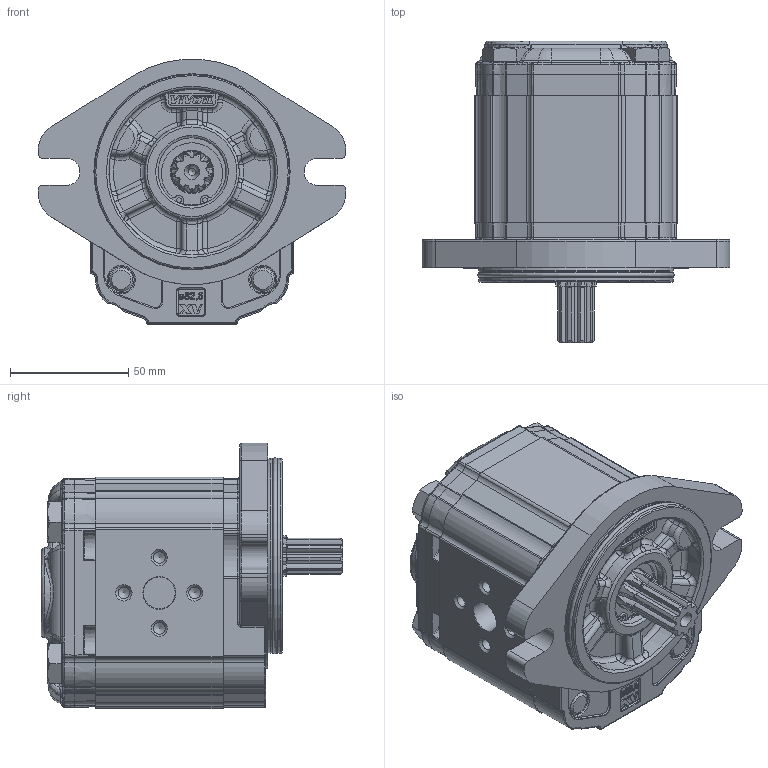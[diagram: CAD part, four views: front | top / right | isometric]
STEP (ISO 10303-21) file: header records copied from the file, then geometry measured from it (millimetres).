
FILE_DESCRIPTION(/* description */ ('Unknown'),/* implementation_level */ '2;1');
FILE_NAME(/* name */ 'X2U4552IOOA',/* time_stamp */ '2021-04-26T09:16:14+02:00',/* author */ ('Unknown'),/* organization */ ('Unknown'),/* preprocessor_version */ 'ST-DEVELOPER v16.7',/* originating_system */ 'Solid Edge',/* authorisation */ 'Unknown');
FILE_SCHEMA (('CONFIG_CONTROL_DESIGN','AUTOMOTIVE_DESIGN {1 0 10303 214 3 1 1}'));
Products named in the file (5): X2U4552IOOA; X2U52; 2I; X2OOH54; XU219-A
Assembly tree (4 placements, depth 2):
  X2U4552IOOA
    X2U52
    2I
    X2OOH54
    XU219-A
Bounding box: 130.38 x 127.7 x 112.3 mm (x, y, z)
Volume: 711657.3 mm3; surface area: 113744.6 mm2
Topology: 4 solids, 5 shells, 2230 faces, 5510 edges, 3347 vertices
Faces by surface type: cylinder 660, plane 592, bspline 537, torus 286, cone 117, sphere 38
Full cylindrical faces by diameter (mm): 2 x2, 4.917 x4, 5 x4, 10 x4, 10.5 x4, 11 x2, 11.5 x4, 13.5 x2, 16 x4, 17.42 x1, 18 x1, 20.595 x1, 23.332 x1, 25.834 x1, 28.5 x1, 28.56 x1, 28.57 x1, 28.8 x1, 30.4 x1, 79.6 x2, 82.5 x2
Entity records: 93010 total; most frequent: CARTESIAN_POINT 30285, ORIENTED_EDGE 10556, DIRECTION 8965, EDGE_CURVE 5278, AXIS2_PLACEMENT_3D 3437, VERTEX_POINT 3273, FACE_BOUND 2461, EDGE_LOOP 2452
